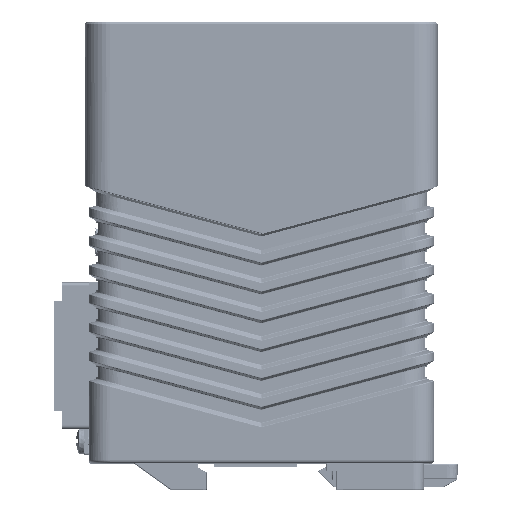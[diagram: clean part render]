
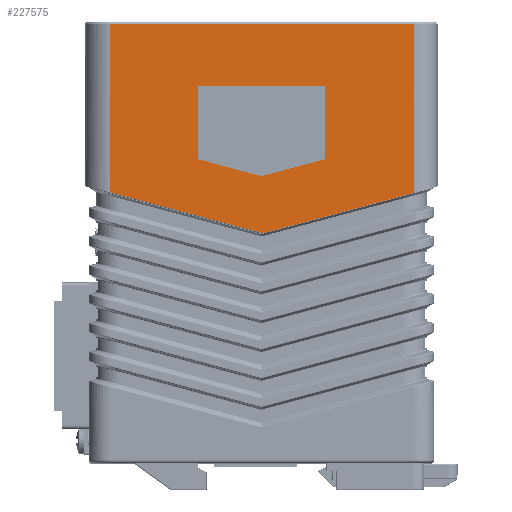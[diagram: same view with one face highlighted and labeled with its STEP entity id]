
A CAD part, left-side view. The second image highlights one B-rep face of the part: STEP entity #227575.
In plain terms, the highlighted planar face has unit normal (-1, 0, 0).
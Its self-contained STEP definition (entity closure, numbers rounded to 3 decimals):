
#11256 = EDGE_CURVE ( 'NONE', #293979, #178359, #38196, .T. ) ;
#12192 = DIRECTION ( 'NONE',  ( 0., 0.966, -0.259 ) ) ;
#18228 = CARTESIAN_POINT ( 'NONE',  ( -13.34, 24.414, -64.992 ) ) ;
#20399 = CARTESIAN_POINT ( 'NONE',  ( -13.34, 17.5, -37.829 ) ) ;
#21531 = CARTESIAN_POINT ( 'NONE',  ( -13.34, 41.895, 0.25 ) ) ;
#36195 = VECTOR ( 'NONE', #108465, 1000. ) ;
#38196 = LINE ( 'NONE', #314296, #144499 ) ;
#39886 = CARTESIAN_POINT ( 'NONE',  ( -13.34, 41.895, 0.25 ) ) ;
#43990 = CARTESIAN_POINT ( 'NONE',  ( -13.34, -42.246, 0.25 ) ) ;
#45104 = VERTEX_POINT ( 'NONE', #204451 ) ;
#45621 = ORIENTED_EDGE ( 'NONE', *, *, #58726, .F. ) ;
#50569 = CARTESIAN_POINT ( 'NONE',  ( -13.34, 41.895, -46.965 ) ) ;
#52138 = FACE_BOUND ( 'NONE', #159141, .T. ) ;
#54821 = VERTEX_POINT ( 'NONE', #50569 ) ;
#58726 = EDGE_CURVE ( 'NONE', #299142, #323839, #110494, .T. ) ;
#59723 = DIRECTION ( 'NONE',  ( 0., -0.966, -0.259 ) ) ;
#64555 = ORIENTED_EDGE ( 'NONE', *, *, #183165, .F. ) ;
#69570 = VECTOR ( 'NONE', #329252, 1000. ) ;
#80730 = DIRECTION ( 'NONE',  ( 0., 1., 0. ) ) ;
#95271 = VERTEX_POINT ( 'NONE', #278432 ) ;
#98200 = CARTESIAN_POINT ( 'NONE',  ( -13.34, 0., -42.518 ) ) ;
#101759 = AXIS2_PLACEMENT_3D ( 'NONE', #21531, #297509, #364958 ) ;
#104301 = EDGE_CURVE ( 'NONE', #45104, #183780, #397692, .T. ) ;
#108465 = DIRECTION ( 'NONE',  ( 0., -0.966, 0.259 ) ) ;
#110494 = LINE ( 'NONE', #323237, #36195 ) ;
#114405 = LINE ( 'NONE', #396656, #69570 ) ;
#122914 = DIRECTION ( 'NONE',  ( 0., 0., -1. ) ) ;
#125557 = VECTOR ( 'NONE', #12192, 1000. ) ;
#131207 = ORIENTED_EDGE ( 'NONE', *, *, #330750, .F. ) ;
#131931 = DIRECTION ( 'NONE',  ( 0., 0., -1. ) ) ;
#133382 = CARTESIAN_POINT ( 'NONE',  ( -13.34, -42.246, -47.13 ) ) ;
#133410 = ORIENTED_EDGE ( 'NONE', *, *, #317663, .F. ) ;
#136713 = ORIENTED_EDGE ( 'NONE', *, *, #143441, .T. ) ;
#143441 = EDGE_CURVE ( 'NONE', #178359, #54821, #354692, .T. ) ;
#144499 = VECTOR ( 'NONE', #346952, 1000. ) ;
#148184 = CARTESIAN_POINT ( 'NONE',  ( -13.34, -17.5, -17.5 ) ) ;
#156996 = CARTESIAN_POINT ( 'NONE',  ( -13.34, 41.895, -0.354 ) ) ;
#159141 = EDGE_LOOP ( 'NONE', ( #383885, #64555, #45621, #234170, #131207 ) ) ;
#169640 = DIRECTION ( 'NONE',  ( 0., -0.966, -0.259 ) ) ;
#178359 = VERTEX_POINT ( 'NONE', #156996 ) ;
#183165 = EDGE_CURVE ( 'NONE', #323839, #45104, #114405, .T. ) ;
#183780 = VERTEX_POINT ( 'NONE', #394445 ) ;
#191940 = EDGE_LOOP ( 'NONE', ( #136713, #363820, #133410, #204827, #216889 ) ) ;
#204451 = CARTESIAN_POINT ( 'NONE',  ( -13.34, -17.5, -17.5 ) ) ;
#204827 = ORIENTED_EDGE ( 'NONE', *, *, #294563, .F. ) ;
#209141 = EDGE_CURVE ( 'NONE', #54821, #95271, #282494, .T. ) ;
#216889 = ORIENTED_EDGE ( 'NONE', *, *, #11256, .T. ) ;
#217579 = VERTEX_POINT ( 'NONE', #239599 ) ;
#218961 = LINE ( 'NONE', #284335, #342609 ) ;
#227575 = ADVANCED_FACE ( 'NONE', ( #52138, #266834 ), #270863, .F. ) ;
#227952 = DIRECTION ( 'NONE',  ( 0., 0., -1. ) ) ;
#234170 = ORIENTED_EDGE ( 'NONE', *, *, #302345, .F. ) ;
#239599 = CARTESIAN_POINT ( 'NONE',  ( -13.34, 17.5, -37.829 ) ) ;
#251285 = VECTOR ( 'NONE', #227952, 1000. ) ;
#266834 = FACE_OUTER_BOUND ( 'NONE', #191940, .T. ) ;
#270863 = PLANE ( 'NONE',  #101759 ) ;
#278432 = CARTESIAN_POINT ( 'NONE',  ( -13.34, -0.483, -58.321 ) ) ;
#280955 = CARTESIAN_POINT ( 'NONE',  ( -13.34, -42.246, -0.354 ) ) ;
#282494 = LINE ( 'NONE', #339846, #298530 ) ;
#284335 = CARTESIAN_POINT ( 'NONE',  ( -13.34, 17.5, -17.5 ) ) ;
#284504 = VECTOR ( 'NONE', #80730, 1000. ) ;
#292231 = LINE ( 'NONE', #18228, #125557 ) ;
#293979 = VERTEX_POINT ( 'NONE', #280955 ) ;
#294563 = EDGE_CURVE ( 'NONE', #293979, #396569, #320080, .T. ) ;
#297509 = DIRECTION ( 'NONE',  ( 1., 0., 0. ) ) ;
#297843 = VECTOR ( 'NONE', #169640, 1000. ) ;
#298530 = VECTOR ( 'NONE', #59723, 1000. ) ;
#299142 = VERTEX_POINT ( 'NONE', #98200 ) ;
#300446 = LINE ( 'NONE', #20399, #297843 ) ;
#302345 = EDGE_CURVE ( 'NONE', #217579, #299142, #300446, .T. ) ;
#314296 = CARTESIAN_POINT ( 'NONE',  ( -13.34, 41.895, -0.354 ) ) ;
#317663 = EDGE_CURVE ( 'NONE', #396569, #95271, #292231, .T. ) ;
#320080 = LINE ( 'NONE', #43990, #251285 ) ;
#323237 = CARTESIAN_POINT ( 'NONE',  ( -13.34, 0., -42.518 ) ) ;
#323839 = VERTEX_POINT ( 'NONE', #399960 ) ;
#329252 = DIRECTION ( 'NONE',  ( 0., 0., 1. ) ) ;
#329529 = VECTOR ( 'NONE', #131931, 1000. ) ;
#330750 = EDGE_CURVE ( 'NONE', #183780, #217579, #218961, .T. ) ;
#339846 = CARTESIAN_POINT ( 'NONE',  ( -13.34, -0.065, -58.209 ) ) ;
#342609 = VECTOR ( 'NONE', #122914, 1000. ) ;
#346952 = DIRECTION ( 'NONE',  ( 0., 1., 0. ) ) ;
#354692 = LINE ( 'NONE', #39886, #329529 ) ;
#363820 = ORIENTED_EDGE ( 'NONE', *, *, #209141, .T. ) ;
#364958 = DIRECTION ( 'NONE',  ( 0., 0., -1. ) ) ;
#383885 = ORIENTED_EDGE ( 'NONE', *, *, #104301, .F. ) ;
#394445 = CARTESIAN_POINT ( 'NONE',  ( -13.34, 17.5, -17.5 ) ) ;
#396569 = VERTEX_POINT ( 'NONE', #133382 ) ;
#396656 = CARTESIAN_POINT ( 'NONE',  ( -13.34, -17.5, -37.829 ) ) ;
#397692 = LINE ( 'NONE', #148184, #284504 ) ;
#399960 = CARTESIAN_POINT ( 'NONE',  ( -13.34, -17.5, -37.829 ) ) ;
